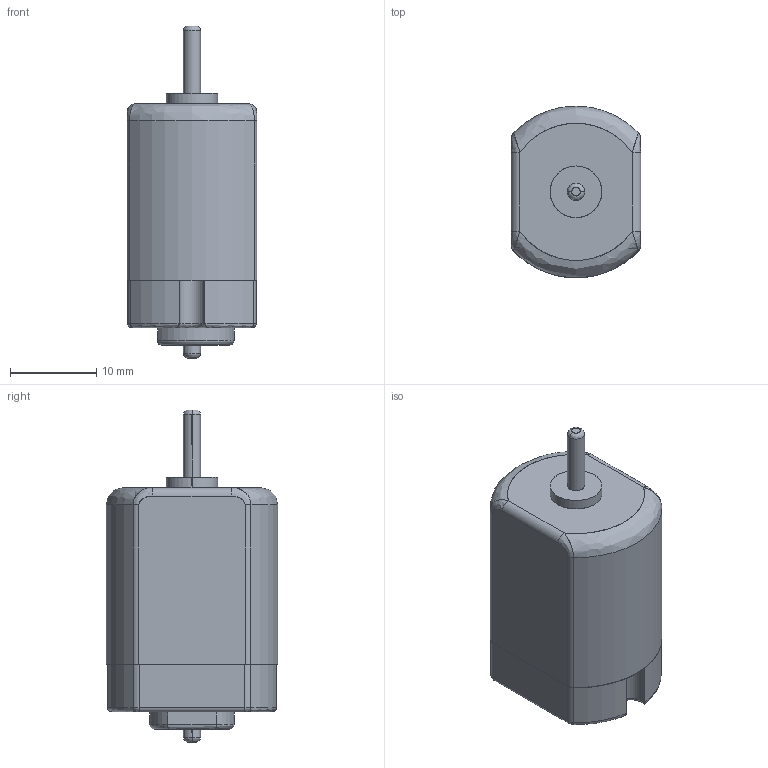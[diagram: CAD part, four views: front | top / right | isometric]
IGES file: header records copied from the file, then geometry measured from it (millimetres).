
Start section: SolidWorks IGES file using analytic representation for surfaces
Global section: file name: C:\Users\AndreBernot\Downloads\K-RACER-L_3D_SW\K-RACER-L_3D_SW\TAM-1117_Moteur.IGS; native system: SolidWorks 2015; preprocessor: SolidWorks 2015; author: AndreBernot; date: 170922.151612; units: millimetre
Bounding box: 15 x 19.9 x 38.5 mm (x, y, z)
Surface area: 2201.1 mm2 (no closed solid volume)
Topology: 0 solids, 0 shells, 70 faces, 771 edges, 771 vertices
Faces by surface type: bspline 37, revolution 33
